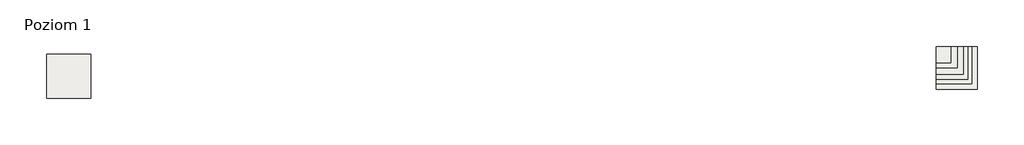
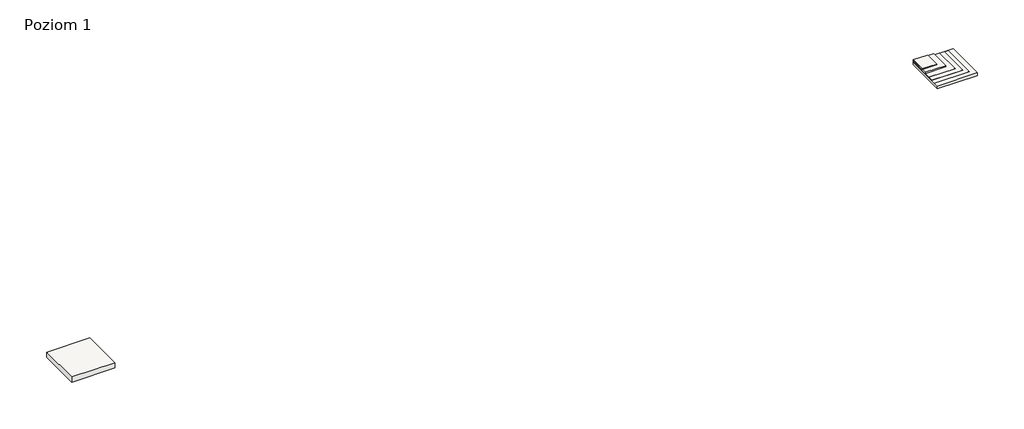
# One storey: 2 slabs.
"""IFC4 building model written with IfcOpenShell, lengths in millimetres."""

from ifc_helpers import new_model, si_unit, frame, origin, place, context, project, spatial, polyline, outline, extrude, element, save

model = new_model("IFC4")

# Units and contexts
model_context = context("Model", 3, world=origin())
ifc_project = project(units=[si_unit("LENGTHUNIT", "METRE", prefix="MILLI")], contexts=[model_context])

# Site, building, storey
site = spatial("IfcSite", under=ifc_project)
building = spatial("IfcBuilding", under=site)
storey = spatial("IfcBuildingStorey", under=building, Name="Poziom 1", Elevation=0.0)

# Slabs
placement = place(None, origin())
element("IfcSlab", 1, ObjectType="Torowisko tramwajowe CRICKET w uprawie ekstensywnej na kruszywie", at=placement, inside=storey, context=model_context, shape_type="SweptSolid", body=[
    extrude(outline(polyline([(-13494.8444454, -525.5470033), (-13494.8444454, -3525.5470033), (-16494.8444454, -3525.5470033), (-16494.8444454, -525.5470033), (-13494.8444454, -525.5470033)])), frame((0.0, 0.0, -372.0), z_axis=(0.0, 0.0, 1.0), x_axis=(1.0, 0.0, 0.0)), (0.0, 0.0, 1.0), 372.0),
])
element("IfcSlab", 2, ObjectType="Torowisko tramwajowe CRICKET w uprawie ekstensywnej na kruszywie", at=placement, inside=storey, context=model_context, shape_type="SweptSolid", body=[
    extrude(outline(polyline([(44765.3989325, -10.5291027), (44765.3989325, -1110.5291027), (43778.8641988, -1110.5291027), (43778.8641988, -10.5291027), (44765.3989325, -10.5291027)])), frame((0.0, 0.0, -50.0), z_axis=(0.0, 0.0, 1.0), x_axis=(1.0, 0.0, 0.0)), (0.0, 0.0, 1.0), 50.0),
    extrude(outline(polyline([(45198.8641988, -10.5291027), (45198.8641988, -1443.3311023), (43778.8641988, -1443.3311023), (43778.8641988, -10.5291027), (45198.8641988, -10.5291027)])), frame((0.0, 0.0, -150.0), z_axis=(0.0, 0.0, 1.0), x_axis=(1.0, 0.0, 0.0)), (0.0, 0.0, 1.0), 100.0),
    extrude(outline(polyline([(45594.1401525, -10.5291027), (45594.1401525, -1870.2050694), (43778.8641988, -1870.2050694), (43778.8641988, -10.5291027), (45594.1401525, -10.5291027)])), frame((0.0, 0.0, -151.0), z_axis=(0.0, 0.0, 1.0), x_axis=(1.0, 0.0, 0.0)), (0.0, 0.0, 1.0), 1.0),
    extrude(outline(polyline([(45908.4290003, -10.5291027), (45908.4290003, -2226.0826468), (43778.8641988, -2226.0826468), (43778.8641988, -10.5291027), (45908.4290003, -10.5291027)])), frame((0.0, 0.0, -171.0), z_axis=(0.0, 0.0, 1.0), x_axis=(1.0, 0.0, 0.0)), (0.0, 0.0, 1.0), 20.0),
    extrude(outline(polyline([(46188.4193794, -10.5291027), (46188.4193794, -2529.3228609), (43778.8641988, -2529.3228609), (43778.8641988, -10.5291027), (46188.4193794, -10.5291027)])), frame((0.0, 0.0, -172.0), z_axis=(0.0, 0.0, 1.0), x_axis=(1.0, 0.0, 0.0)), (0.0, 0.0, 1.0), 1.0),
    extrude(outline(polyline([(46558.8641988, -10.5291027), (46558.8641988, -2890.5291027), (43778.8641988, -2890.5291027), (43778.8641988, -10.5291027), (46558.8641988, -10.5291027)])), frame((0.0, 0.0, -372.0), z_axis=(0.0, 0.0, 1.0), x_axis=(1.0, 0.0, 0.0)), (0.0, 0.0, 1.0), 200.0),
])

save(model, "model.ifc")
